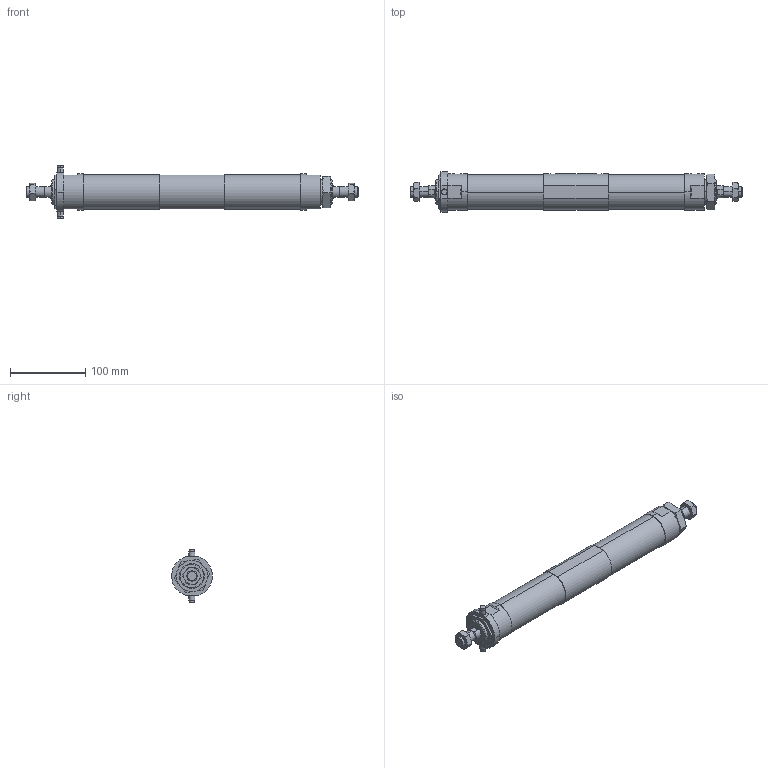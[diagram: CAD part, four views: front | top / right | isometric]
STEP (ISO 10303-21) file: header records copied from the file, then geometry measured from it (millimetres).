
FILE_DESCRIPTION (( 'STEP AP203' ), '1' );
FILE_NAME ('JGD7-40-50-50-T.STEP', '2016-04-19T07:26:14', ( '' ), ( '' ), 'SwSTEP 2.0', 'SolidWorks 2014', '' );
FILE_SCHEMA (( 'CONFIG_CONTROL_DESIGN' ));
Length unit declared in the file: millimetre
Products named in the file (8): JGD7-40-50-50-T; JGD2-40MI; 40-50; J#2-40-T; M33x2-11mm; M14x1.5-8mm; JGLH2-40B; M33x2-3mm
Assembly tree (10 placements, depth 2):
  JGD7-40-50-50-T
    JGLH2-40B  x2
    40-50  x2
    JGD2-40MI
    M14x1.5-8mm  x2
    M33x2-3mm
    J#2-40-T
    M33x2-11mm
Bounding box: 440 x 53.91 x 70 mm (x, y, z)
Volume: 642158.2 mm3; surface area: 90701 mm2
Topology: 10 solids, 10 shells, 199 faces, 445 edges, 268 vertices
Faces by surface type: plane 66, cylinder 51, torus 48, cone 34
Entity records: 5460 total; most frequent: CARTESIAN_POINT 1437, DIRECTION 660, ORIENTED_EDGE 630, EDGE_CURVE 315, AXIS2_PLACEMENT_3D 275, VERTEX_POINT 194, EDGE_LOOP 157, ADVANCED_FACE 142
